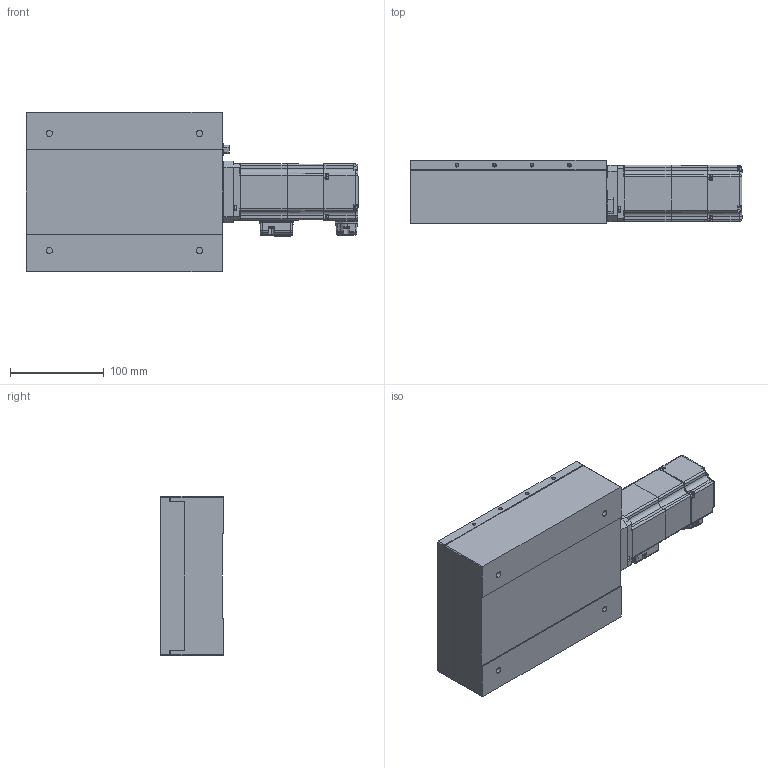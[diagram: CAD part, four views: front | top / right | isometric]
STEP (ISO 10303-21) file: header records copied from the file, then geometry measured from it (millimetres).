
FILE_DESCRIPTION (( 'STEP AP203' ), '1' );
FILE_NAME ('NPS-AC-20B-05x.STEP', '2019-09-11T06:35:09', ( '' ), ( '' ), 'SwSTEP 2.0', 'SolidWorks 2015', '' );
FILE_SCHEMA (( 'CONFIG_CONTROL_DESIGN' ));
Length unit declared in the file: millimetre
Products named in the file (3): NPS-AC-20B-05x; NPS-AC-20B-05x_移動部; NPS-AC-20B-05x_固定部
Assembly tree (2 placements, depth 2):
  NPS-AC-20B-05x
    NPS-AC-20B-05x_移動部
    NPS-AC-20B-05x_固定部
Bounding box: 354 x 67 x 170 mm (x, y, z)
Volume: 789359.3 mm3; surface area: 278803.8 mm2
Topology: 1 solids, 32 shells, 1034 faces, 2933 edges, 1944 vertices
Faces by surface type: plane 394, cylinder 391, torus 90, cone 58, bspline 52, sphere 49
Entity records: 42541 total; most frequent: CARTESIAN_POINT 16303, DIRECTION 5389, ORIENTED_EDGE 5099, EDGE_CURVE 2876, AXIS2_PLACEMENT_3D 1976, VERTEX_POINT 1924, LINE 1437, VECTOR 1437
